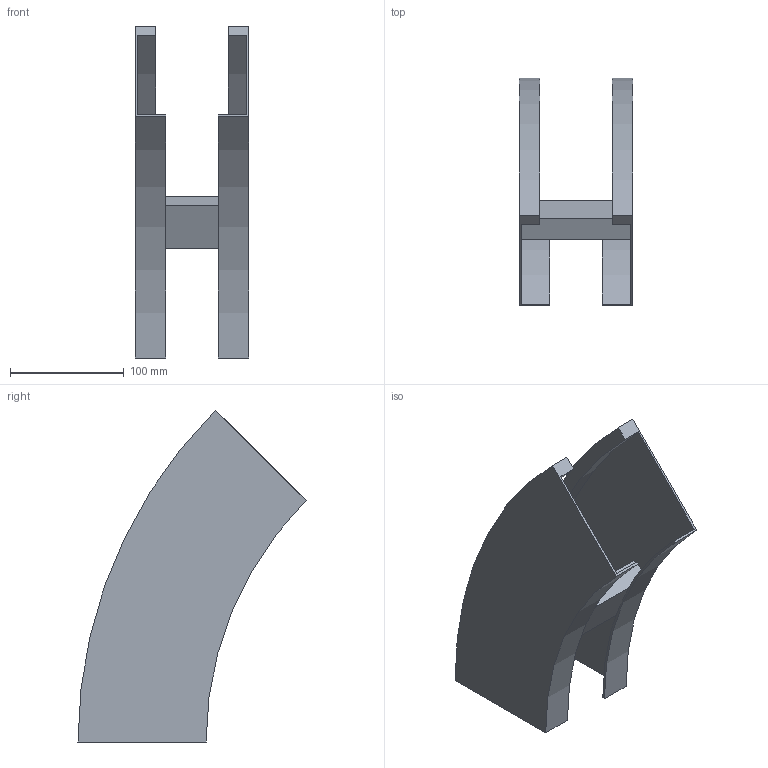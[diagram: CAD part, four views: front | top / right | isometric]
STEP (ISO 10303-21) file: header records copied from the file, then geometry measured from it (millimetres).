
FILE_DESCRIPTION (( 'STEP AP214' ), '1' );
FILE_NAME ('B2_34B3J100.step', '2025-02-21T14:53:38', ( '' ), ( '' ), 'SwSTEP 2.0', 'SolidWorks 2023', '' );
FILE_SCHEMA (( 'AUTOMOTIVE_DESIGN' ));
Length unit declared in the file: millimetre
Products named in the file (3): B2_LONGH.DISCESA_45°_H112.5_R300; B2_34B3J100; TRAVERSINO_100
Assembly tree (3 placements, depth 2):
  B2_34B3J100
    B2_LONGH.DISCESA_45°_H112.5_R300  x2
    TRAVERSINO_100
Bounding box: 100 x 200.37 x 291.68 mm (x, y, z)
Volume: 349907.1 mm3; surface area: 187324.9 mm2
Topology: 3 solids, 3 shells, 26 faces, 60 edges, 40 vertices
Faces by surface type: plane 18, cylinder 8
Entity records: 544 total; most frequent: DIRECTION 88, CARTESIAN_POINT 82, ORIENTED_EDGE 72, EDGE_CURVE 36, AXIS2_PLACEMENT_3D 30, LINE 28, VECTOR 28, VERTEX_POINT 24
